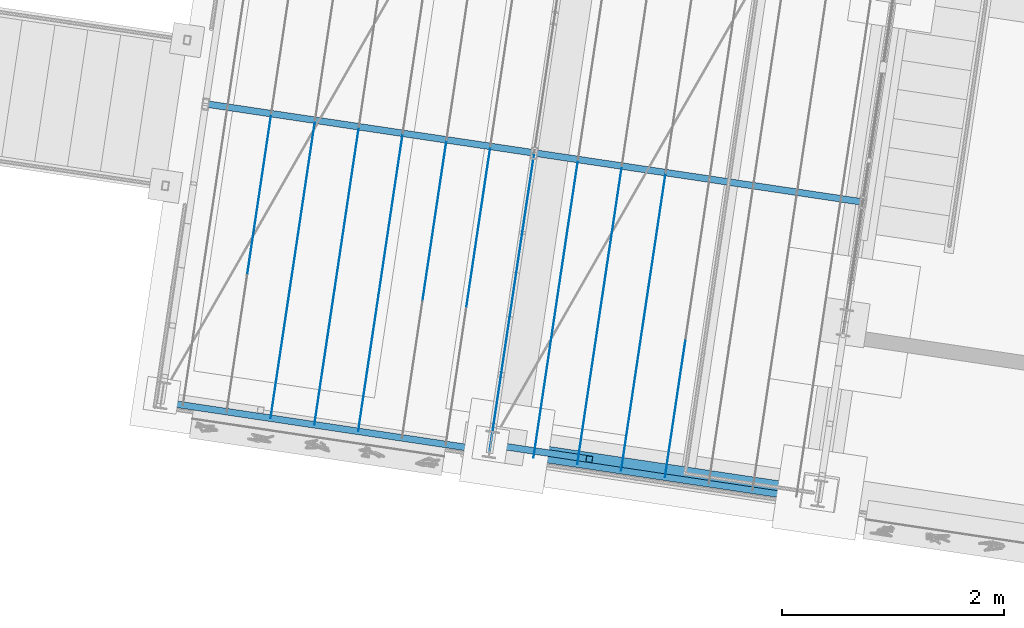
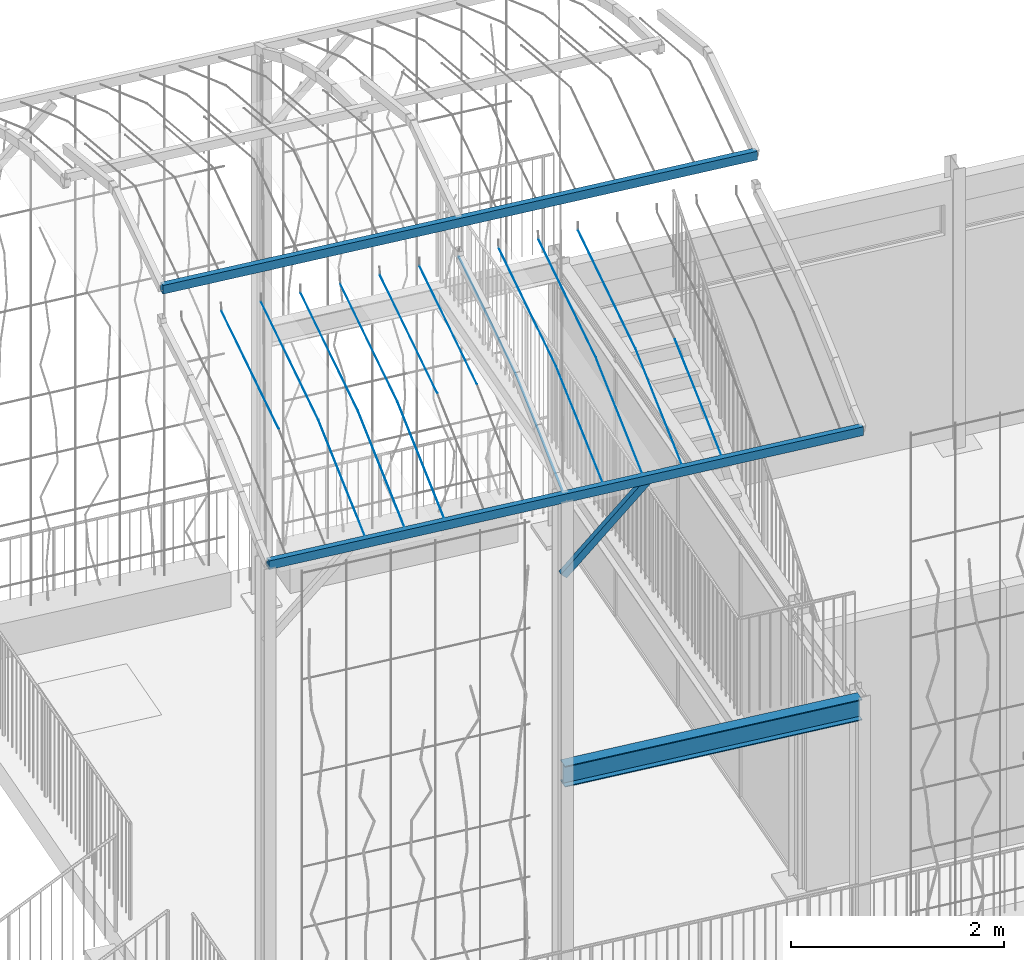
# One storey, part 17 of 143: 19 members, 3 beams, 1 element without a shape of its own.
"""IFC4 building model written with IfcOpenShell, lengths in metres."""

from ifc_helpers import new_model, si_unit, direction, frame, origin_with_axes, place, context, subcontext, project, spatial, hollow_rectangle, circle, i_section, extrude, material, material_profile, profile_set, profile_usage, type_object, element, aggregate, save


model = new_model("IFC4")

# Units and contexts
model_context = context("Model", 3, precision=1e-05, world=origin_with_axes(), true_north=direction((0.0, 1.0)))
body_context = subcontext(model_context, "Body", "Model", "MODEL_VIEW")
ifc_project = project(units=[si_unit("VOLUMEUNIT", "CUBIC_METRE"), si_unit("LENGTHUNIT", "METRE"), si_unit("AREAUNIT", "SQUARE_METRE")], contexts=[model_context])

# Site, building, storey
site_placement = place(None, origin_with_axes())
site = spatial("IfcSite", under=ifc_project, at=site_placement, Name="Lares · Rua das Mercês · artigo 4771")
building_placement = place(site_placement, frame((15.0, 9.7, 15.8), z_axis=(0.0, 0.0, 1.0), x_axis=(0.989015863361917, -0.147809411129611, 0.0)))
building = spatial("IfcBuilding", under=site, at=building_placement, Name="Casa Sobreposta")
storey_placement = place(building_placement, origin_with_axes())
storey = spatial("IfcBuildingStorey", under=building, at=storey_placement, Name="00 · Habitação e estacionamento", Elevation=15.8)

# Assembly, beams, members
assembly_placement = place(storey_placement, origin_with_axes())
assembly = element("IfcElementAssembly", 1, at=assembly_placement, inside=storey, Name="Pérgola · prolongamento da estufa 6 m", ObjectType="PERGOLA_GREENHOUSE_EXTENSION", PredefinedType="USERDEFINED")
ifc_material_1 = material(Name="Aço pintado / Stahl lackiert", Category="steel")
ifc_material_profile_1 = material_profile(ifc_material_1, i_section(OverallWidth=0.12, OverallDepth=0.24, WebThickness=0.0062, FlangeThickness=0.0098))
ifc_profile_set_1 = profile_set([ifc_material_profile_1], Name="IPE240")
ifc_profile_usage_1 = profile_usage(ifc_profile_set_1)
beam_type_1 = type_object("IfcBeamType", Name="IPE240 / steel", PredefinedType="NOTDEFINED", material=ifc_profile_set_1)
beam_1_placement = place(assembly_placement, frame((-3.0, -1.44, 3.02), z_axis=(1.0, 0.0, 0.0), x_axis=(0.0, -1.0, 0.0)))
beam_1 = element("IfcBeam", 2, at=beam_1_placement, type_object=beam_type_1, material=ifc_profile_usage_1, Name="Varanda · viga de bordo", context=body_context, shape_type="SweptSolid", body=[
    extrude(i_section(OverallWidth=0.12, OverallDepth=0.24, WebThickness=0.0062, FlangeThickness=0.0098), origin_with_axes(), (0.0, 0.0, 1.0), 3.0),
])
ifc_material_profile_2 = material_profile(ifc_material_1, hollow_rectangle(XDim=0.06, YDim=0.1, WallThickness=0.004))
ifc_profile_set_2 = profile_set([ifc_material_profile_2], Name="RHS100x60x4")
ifc_profile_usage_2 = profile_usage(ifc_profile_set_2)
beam_type_2 = type_object("IfcBeamType", Name="RHS100x60x4 / steel", PredefinedType="NOTDEFINED", material=ifc_profile_set_2)
beam_2_placement = place(assembly_placement, frame((-6.0, -1.5, 6.23430000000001), z_axis=(1.0, 0.0, 0.0), x_axis=(0.0, -1.0, 0.0)))
beam_2 = element("IfcBeam", 3, at=beam_2_placement, type_object=beam_type_2, material=ifc_profile_usage_2, Name="Pérgola · terça", context=body_context, shape_type="SweptSolid", body=[
    extrude(hollow_rectangle(XDim=0.06, YDim=0.1, WallThickness=0.004), origin_with_axes(), (0.0, 0.0, 1.0), 6.0),
])
ifc_profile_usage_3 = profile_usage(ifc_profile_set_2)
beam_3_placement = place(assembly_placement, frame((-6.0, 1.22042020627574, 7.62067689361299), z_axis=(1.0, 0.0, 0.0), x_axis=(0.0, -1.0, 0.0)))
beam_3 = element("IfcBeam", 4, at=beam_3_placement, type_object=beam_type_2, material=ifc_profile_usage_3, Name="Pérgola · terça", context=body_context, shape_type="SweptSolid", body=[
    extrude(hollow_rectangle(XDim=0.06, YDim=0.1, WallThickness=0.004), origin_with_axes(), (0.0, 0.0, 1.0), 6.0),
])
ifc_material_profile_3 = material_profile(ifc_material_1, hollow_rectangle(XDim=0.06, YDim=0.08, WallThickness=0.004))
ifc_profile_set_3 = profile_set([ifc_material_profile_3], Name="RHS80x60x4")
ifc_profile_usage_4 = profile_usage(ifc_profile_set_3)
member_type_1 = type_object("IfcMemberType", Name="RHS80x60x4 / steel", PredefinedType="NOTDEFINED", material=ifc_profile_set_3)
member_1_placement = place(assembly_placement, frame((-3.0, -1.44, 5.3), z_axis=(0.699294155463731, 0.0, 0.714834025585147), x_axis=(0.0, -1.0, 0.0)))
member_1 = element("IfcMember", 5, at=member_1_placement, type_object=member_type_1, material=ifc_profile_usage_4, Name="Pérgola · escora alta", context=body_context, shape_type="SweptSolid", body=[
    extrude(hollow_rectangle(XDim=0.06, YDim=0.08, WallThickness=0.004), origin_with_axes(), (0.0, 0.0, 1.0), 1.28701204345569),
])
ifc_material_2 = material(Name="Aço galvanizado / Stahl verzinkt", Category="steel")
ifc_material_profile_4 = material_profile(ifc_material_2, circle(Radius=0.002))
ifc_profile_set_4 = profile_set([ifc_material_profile_4], Name="D0.004")
ifc_profile_usage_5 = profile_usage(ifc_profile_set_4)
member_type_2 = type_object("IfcMemberType", Name="D0.004 / galvanized", PredefinedType="NOTDEFINED", material=ifc_profile_set_4)
member_2_placement = place(assembly_placement, frame((-5.4, -0.256488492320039, 6.81570306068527), z_axis=(0.0, 0.96535496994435, 0.260940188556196), x_axis=(1.0, 0.0, 0.0)))
member_2 = element("IfcMember", 6, at=member_2_placement, type_object=member_type_2, material=ifc_profile_usage_5, Name="Pérgola · fio para trepadeiras", context=body_context, shape_type="SweptSolid", body=[
    extrude(circle(Radius=0.002), origin_with_axes(), (0.0, 0.0, 1.0), 1.52368621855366),
])
ifc_profile_usage_6 = profile_usage(ifc_profile_set_4)
member_3_placement = place(assembly_placement, frame((-5.0, -1.5, 6.23430000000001), z_axis=(0.0, 0.905876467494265, 0.423541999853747), x_axis=(1.0, 0.0, 0.0)))
member_3 = element("IfcMember", 7, at=member_3_placement, type_object=member_type_2, material=ifc_profile_usage_6, Name="Pérgola · fio para trepadeiras", context=body_context, shape_type="SweptSolid", body=[
    extrude(circle(Radius=0.002), origin_with_axes(), (0.0, 0.0, 1.0), 1.37271642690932),
])
ifc_profile_usage_7 = profile_usage(ifc_profile_set_4)
member_4_placement = place(assembly_placement, frame((-5.0, -0.256488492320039, 6.81570306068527), z_axis=(0.0, 0.96535496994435, 0.260940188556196), x_axis=(1.0, 0.0, 0.0)))
member_4 = element("IfcMember", 8, at=member_4_placement, type_object=member_type_2, material=ifc_profile_usage_7, Name="Pérgola · fio para trepadeiras", context=body_context, shape_type="SweptSolid", body=[
    extrude(circle(Radius=0.002), origin_with_axes(), (0.0, 0.0, 1.0), 1.52368621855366),
])
ifc_profile_usage_8 = profile_usage(ifc_profile_set_4)
member_5_placement = place(assembly_placement, frame((-4.6, -1.5, 6.23430000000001), z_axis=(0.0, 0.905876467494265, 0.423541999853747), x_axis=(1.0, 0.0, 0.0)))
member_5 = element("IfcMember", 9, at=member_5_placement, type_object=member_type_2, material=ifc_profile_usage_8, Name="Pérgola · fio para trepadeiras", context=body_context, shape_type="SweptSolid", body=[
    extrude(circle(Radius=0.002), origin_with_axes(), (0.0, 0.0, 1.0), 1.37271642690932),
])
ifc_profile_usage_9 = profile_usage(ifc_profile_set_4)
member_6_placement = place(assembly_placement, frame((-4.6, -0.256488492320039, 6.81570306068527), z_axis=(0.0, 0.96535496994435, 0.260940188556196), x_axis=(1.0, 0.0, 0.0)))
member_6 = element("IfcMember", 10, at=member_6_placement, type_object=member_type_2, material=ifc_profile_usage_9, Name="Pérgola · fio para trepadeiras", context=body_context, shape_type="SweptSolid", body=[
    extrude(circle(Radius=0.002), origin_with_axes(), (0.0, 0.0, 1.0), 1.52368621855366),
])
ifc_profile_usage_10 = profile_usage(ifc_profile_set_4)
member_7_placement = place(assembly_placement, frame((-4.2, -1.5, 6.23430000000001), z_axis=(0.0, 0.905876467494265, 0.423541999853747), x_axis=(1.0, 0.0, 0.0)))
member_7 = element("IfcMember", 11, at=member_7_placement, type_object=member_type_2, material=ifc_profile_usage_10, Name="Pérgola · fio para trepadeiras", context=body_context, shape_type="SweptSolid", body=[
    extrude(circle(Radius=0.002), origin_with_axes(), (0.0, 0.0, 1.0), 1.37271642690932),
])
ifc_profile_usage_11 = profile_usage(ifc_profile_set_4)
member_8_placement = place(assembly_placement, frame((-4.2, -0.256488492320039, 6.81570306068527), z_axis=(0.0, 0.96535496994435, 0.260940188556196), x_axis=(1.0, 0.0, 0.0)))
member_8 = element("IfcMember", 12, at=member_8_placement, type_object=member_type_2, material=ifc_profile_usage_11, Name="Pérgola · fio para trepadeiras", context=body_context, shape_type="SweptSolid", body=[
    extrude(circle(Radius=0.002), origin_with_axes(), (0.0, 0.0, 1.0), 1.52368621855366),
])
ifc_profile_usage_12 = profile_usage(ifc_profile_set_4)
member_9_placement = place(assembly_placement, frame((-3.8, -0.256488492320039, 6.81570306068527), z_axis=(0.0, 0.96535496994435, 0.260940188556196), x_axis=(1.0, 0.0, 0.0)))
member_9 = element("IfcMember", 13, at=member_9_placement, type_object=member_type_2, material=ifc_profile_usage_12, Name="Pérgola · fio para trepadeiras", context=body_context, shape_type="SweptSolid", body=[
    extrude(circle(Radius=0.002), origin_with_axes(), (0.0, 0.0, 1.0), 1.52368621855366),
])
ifc_profile_usage_13 = profile_usage(ifc_profile_set_4)
member_10_placement = place(assembly_placement, frame((-3.4, -0.256488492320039, 6.81570306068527), z_axis=(0.0, 0.96535496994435, 0.260940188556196), x_axis=(1.0, 0.0, 0.0)))
member_10 = element("IfcMember", 14, at=member_10_placement, type_object=member_type_2, material=ifc_profile_usage_13, Name="Pérgola · fio para trepadeiras", context=body_context, shape_type="SweptSolid", body=[
    extrude(circle(Radius=0.002), origin_with_axes(), (0.0, 0.0, 1.0), 1.52368621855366),
])
ifc_profile_usage_14 = profile_usage(ifc_profile_set_4)
member_11_placement = place(assembly_placement, frame((-3.0, -1.5, 6.23430000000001), z_axis=(0.0, 0.905876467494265, 0.423541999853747), x_axis=(1.0, 0.0, 0.0)))
member_11 = element("IfcMember", 15, at=member_11_placement, type_object=member_type_2, material=ifc_profile_usage_14, Name="Pérgola · fio para trepadeiras", context=body_context, shape_type="SweptSolid", body=[
    extrude(circle(Radius=0.002), origin_with_axes(), (0.0, 0.0, 1.0), 1.37271642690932),
])
ifc_profile_usage_15 = profile_usage(ifc_profile_set_4)
member_12_placement = place(assembly_placement, frame((-3.0, -0.256488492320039, 6.81570306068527), z_axis=(0.0, 0.96535496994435, 0.260940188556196), x_axis=(1.0, 0.0, 0.0)))
member_12 = element("IfcMember", 16, at=member_12_placement, type_object=member_type_2, material=ifc_profile_usage_15, Name="Pérgola · fio para trepadeiras", context=body_context, shape_type="SweptSolid", body=[
    extrude(circle(Radius=0.002), origin_with_axes(), (0.0, 0.0, 1.0), 1.52368621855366),
])
ifc_profile_usage_16 = profile_usage(ifc_profile_set_4)
member_13_placement = place(assembly_placement, frame((-2.6, -1.5, 6.23430000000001), z_axis=(0.0, 0.905876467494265, 0.423541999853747), x_axis=(1.0, 0.0, 0.0)))
member_13 = element("IfcMember", 17, at=member_13_placement, type_object=member_type_2, material=ifc_profile_usage_16, Name="Pérgola · fio para trepadeiras", context=body_context, shape_type="SweptSolid", body=[
    extrude(circle(Radius=0.002), origin_with_axes(), (0.0, 0.0, 1.0), 1.37271642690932),
])
ifc_profile_usage_17 = profile_usage(ifc_profile_set_4)
member_14_placement = place(assembly_placement, frame((-2.6, -0.256488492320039, 6.81570306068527), z_axis=(0.0, 0.96535496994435, 0.260940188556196), x_axis=(1.0, 0.0, 0.0)))
member_14 = element("IfcMember", 18, at=member_14_placement, type_object=member_type_2, material=ifc_profile_usage_17, Name="Pérgola · fio para trepadeiras", context=body_context, shape_type="SweptSolid", body=[
    extrude(circle(Radius=0.002), origin_with_axes(), (0.0, 0.0, 1.0), 1.52368621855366),
])
ifc_profile_usage_18 = profile_usage(ifc_profile_set_4)
member_15_placement = place(assembly_placement, frame((-2.2, -1.5, 6.23430000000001), z_axis=(0.0, 0.905876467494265, 0.423541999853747), x_axis=(1.0, 0.0, 0.0)))
member_15 = element("IfcMember", 19, at=member_15_placement, type_object=member_type_2, material=ifc_profile_usage_18, Name="Pérgola · fio para trepadeiras", context=body_context, shape_type="SweptSolid", body=[
    extrude(circle(Radius=0.002), origin_with_axes(), (0.0, 0.0, 1.0), 1.37271642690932),
])
ifc_profile_usage_19 = profile_usage(ifc_profile_set_4)
member_16_placement = place(assembly_placement, frame((-2.2, -0.256488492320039, 6.81570306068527), z_axis=(0.0, 0.96535496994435, 0.260940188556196), x_axis=(1.0, 0.0, 0.0)))
member_16 = element("IfcMember", 20, at=member_16_placement, type_object=member_type_2, material=ifc_profile_usage_19, Name="Pérgola · fio para trepadeiras", context=body_context, shape_type="SweptSolid", body=[
    extrude(circle(Radius=0.002), origin_with_axes(), (0.0, 0.0, 1.0), 1.52368621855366),
])
ifc_profile_usage_20 = profile_usage(ifc_profile_set_4)
member_17_placement = place(assembly_placement, frame((-1.8, -1.5, 6.23430000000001), z_axis=(0.0, 0.905876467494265, 0.423541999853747), x_axis=(1.0, 0.0, 0.0)))
member_17 = element("IfcMember", 21, at=member_17_placement, type_object=member_type_2, material=ifc_profile_usage_20, Name="Pérgola · fio para trepadeiras", context=body_context, shape_type="SweptSolid", body=[
    extrude(circle(Radius=0.002), origin_with_axes(), (0.0, 0.0, 1.0), 1.37271642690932),
])
ifc_profile_usage_21 = profile_usage(ifc_profile_set_4)
member_18_placement = place(assembly_placement, frame((-1.8, -0.256488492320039, 6.81570306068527), z_axis=(0.0, 0.96535496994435, 0.260940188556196), x_axis=(1.0, 0.0, 0.0)))
member_18 = element("IfcMember", 22, at=member_18_placement, type_object=member_type_2, material=ifc_profile_usage_21, Name="Pérgola · fio para trepadeiras", context=body_context, shape_type="SweptSolid", body=[
    extrude(circle(Radius=0.002), origin_with_axes(), (0.0, 0.0, 1.0), 1.52368621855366),
])
ifc_profile_usage_22 = profile_usage(ifc_profile_set_4)
member_19_placement = place(assembly_placement, frame((-1.4, -1.5, 6.23430000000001), z_axis=(0.0, 0.905876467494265, 0.423541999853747), x_axis=(1.0, 0.0, 0.0)))
member_19 = element("IfcMember", 23, at=member_19_placement, type_object=member_type_2, material=ifc_profile_usage_22, Name="Pérgola · fio para trepadeiras", context=body_context, shape_type="SweptSolid", body=[
    extrude(circle(Radius=0.002), origin_with_axes(), (0.0, 0.0, 1.0), 1.37271642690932),
])
aggregate(assembly, [beam_2, beam_3, member_1, member_2, member_3, member_4, member_5, member_6, member_7, member_8, member_9, member_10, member_11, member_12, member_13, member_14, member_15, member_16, member_17, member_18, member_19, beam_1])

save(model, "model.ifc")
